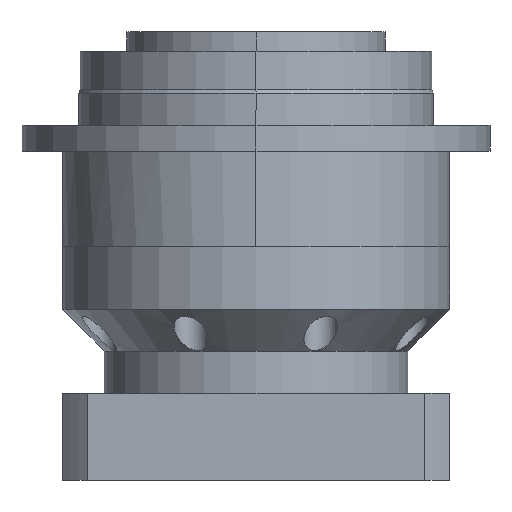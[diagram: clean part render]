
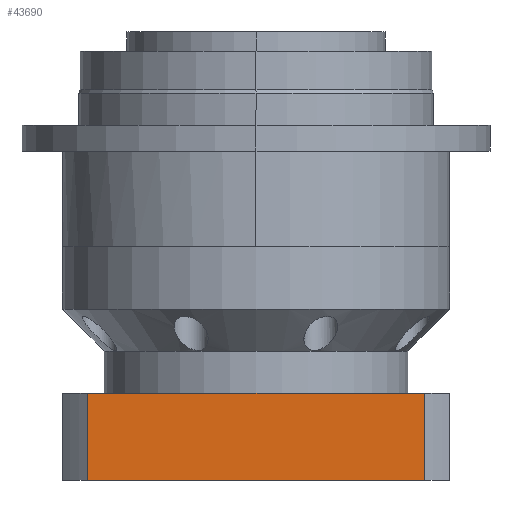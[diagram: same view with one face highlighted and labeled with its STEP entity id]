
A CAD part, left-side view. The second image highlights one B-rep face of the part: STEP entity #43690.
In plain terms, the highlighted planar face has unit normal (-1, 0, 0) as drawn and (0, 1, 0) by its records, which use the part's own axes.
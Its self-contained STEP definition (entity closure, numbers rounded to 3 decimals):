
#190 = DIRECTION ( 'NONE',  ( -1., 0., 0. ) ) ;
#2191 = CARTESIAN_POINT ( 'NONE',  ( 52.156, 60., -27. ) ) ;
#2348 = DIRECTION ( 'NONE',  ( 0., 0., 1. ) ) ;
#2453 = CARTESIAN_POINT ( 'NONE',  ( -52.156, 60., -30. ) ) ;
#3410 = PLANE ( 'NONE',  #5406 ) ;
#3562 = DIRECTION ( 'NONE',  ( 0., 0., 1. ) ) ;
#5406 = AXIS2_PLACEMENT_3D ( 'NONE', #43484, #25949, #3562 ) ;
#6891 = VECTOR ( 'NONE', #19578, 1000. ) ;
#9082 = LINE ( 'NONE', #15751, #6891 ) ;
#9490 = ORIENTED_EDGE ( 'NONE', *, *, #27194, .T. ) ;
#9906 = CARTESIAN_POINT ( 'NONE',  ( 52.156, 60., 0. ) ) ;
#11602 = EDGE_CURVE ( 'NONE', #37769, #32265, #39058, .T. ) ;
#11671 = ORIENTED_EDGE ( 'NONE', *, *, #39678, .F. ) ;
#12711 = ORIENTED_EDGE ( 'NONE', *, *, #43740, .T. ) ;
#13414 = CARTESIAN_POINT ( 'NONE',  ( -52.156, 60., -27. ) ) ;
#15136 = VECTOR ( 'NONE', #2348, 1000. ) ;
#15751 = CARTESIAN_POINT ( 'NONE',  ( 0., 60., 0. ) ) ;
#18397 = CARTESIAN_POINT ( 'NONE',  ( 52.156, 60., 0. ) ) ;
#19394 = ORIENTED_EDGE ( 'NONE', *, *, #11602, .T. ) ;
#19578 = DIRECTION ( 'NONE',  ( 1., 0., 0. ) ) ;
#25949 = DIRECTION ( 'NONE',  ( 0., 1., 0. ) ) ;
#27194 = EDGE_CURVE ( 'NONE', #32265, #31906, #9082, .T. ) ;
#31906 = VERTEX_POINT ( 'NONE', #9906 ) ;
#32265 = VERTEX_POINT ( 'NONE', #41188 ) ;
#34218 = EDGE_LOOP ( 'NONE', ( #19394, #9490, #11671, #12711 ) ) ;
#35611 = FACE_OUTER_BOUND ( 'NONE', #34218, .T. ) ;
#37769 = VERTEX_POINT ( 'NONE', #13414 ) ;
#39058 = LINE ( 'NONE', #2453, #15136 ) ;
#39678 = EDGE_CURVE ( 'NONE', #43931, #31906, #45541, .T. ) ;
#41188 = CARTESIAN_POINT ( 'NONE',  ( -52.156, 60., 0. ) ) ;
#42066 = LINE ( 'NONE', #43777, #42496 ) ;
#42496 = VECTOR ( 'NONE', #190, 1000. ) ;
#43402 = DIRECTION ( 'NONE',  ( 0., 0., 1. ) ) ;
#43484 = CARTESIAN_POINT ( 'NONE',  ( -60., 60., -30. ) ) ;
#43690 = ADVANCED_FACE ( 'NONE', ( #35611 ), #3410, .T. ) ;
#43740 = EDGE_CURVE ( 'NONE', #43931, #37769, #42066, .T. ) ;
#43777 = CARTESIAN_POINT ( 'NONE',  ( -60., 60., -27. ) ) ;
#43931 = VERTEX_POINT ( 'NONE', #2191 ) ;
#45541 = LINE ( 'NONE', #18397, #46070 ) ;
#46070 = VECTOR ( 'NONE', #43402, 1000. ) ;
